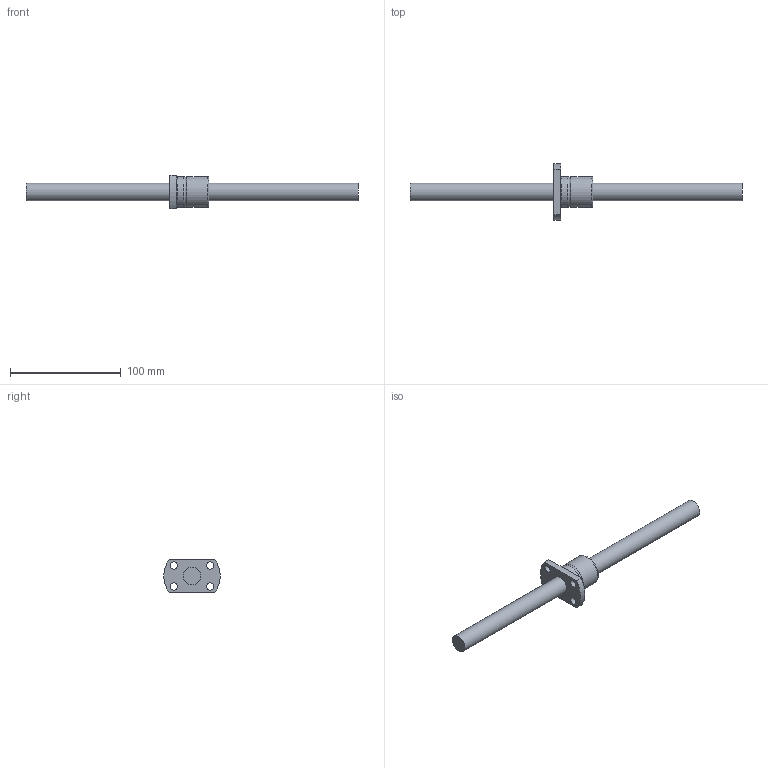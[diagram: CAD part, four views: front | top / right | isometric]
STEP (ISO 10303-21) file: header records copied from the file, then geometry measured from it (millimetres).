
FILE_DESCRIPTION((''),'2;1');
FILE_NAME('D:\製品 (図面)\カタログ用3D\ネジ関連\STEP形式\TMK-OH\TMK16-OH.stp','2010-06-02T15:27:43',('Tsuchiya'),(''),'Autodesk Inventor 10','Autodesk Inventor 10','');
FILE_SCHEMA(('AUTOMOTIVE_DESIGN { 1 0 10303 214 1 1 1 1 }'));
Length unit declared in the file: millimetre
Products named in the file (3): TMK16-OH; TMK16-OH1; TMK16-OH2
Assembly tree (2 placements, depth 2):
  TMK16-OH
    TMK16-OH1
    TMK16-OH2
Bounding box: 300 x 51 x 30 mm (x, y, z)
Volume: 78838 mm3; surface area: 23349.4 mm2
Topology: 2 solids, 2 shells, 21 faces, 49 edges, 33 vertices
Faces by surface type: cylinder 7, plane 7, bspline 6, torus 1
Full cylindrical faces by diameter (mm): 1.5 x1, 16 x2, 28 x2
Entity records: 866 total; most frequent: CARTESIAN_POINT 372, DIRECTION 92, ORIENTED_EDGE 64, EDGE_LOOP 46, AXIS2_PLACEMENT_3D 42, EDGE_CURVE 32, VERTEX_POINT 28, FACE_BOUND 25
